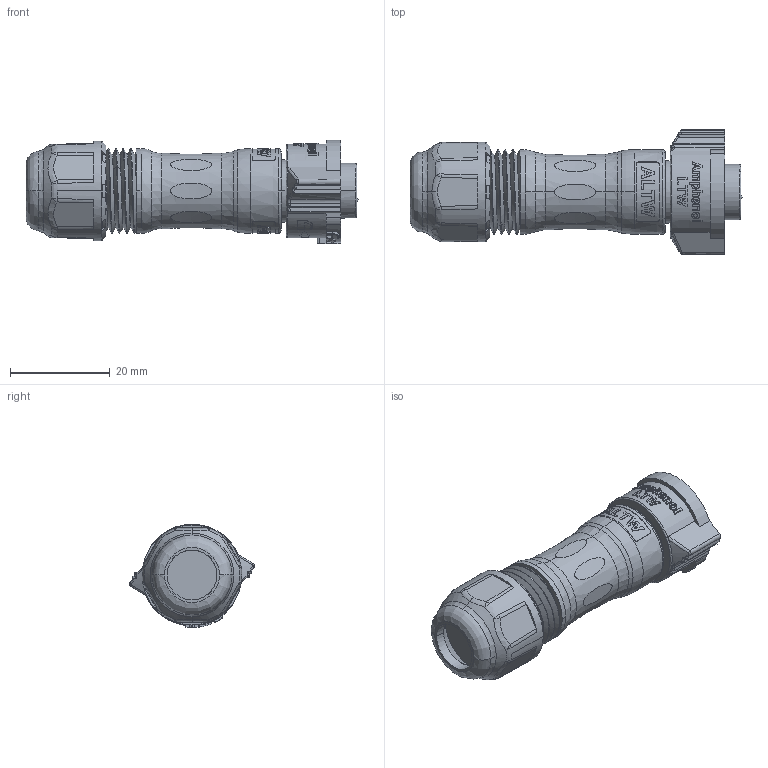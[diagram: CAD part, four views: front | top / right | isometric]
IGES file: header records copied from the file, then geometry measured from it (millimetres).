
Start section:  PTC IGES file: bd-07bffa-ql8an0.igs
Global section: file name: bd-07bffa-ql8an0.igs; native system: Creo Parametric by Parametric Technology Corporation; preprocessor: 2017170; author: L210039; organization: Unknown; date: 20211021.173705; units: millimetre
Bounding box: 66.45 x 25 x 20.7 mm (x, y, z)
Volume: 13922.3 mm3; surface area: 6487.5 mm2
Topology: 1 solids, 3 shells, 922 faces, 2505 edges, 1644 vertices
Faces by surface type: bspline 482, revolution 259, extrusion 181
